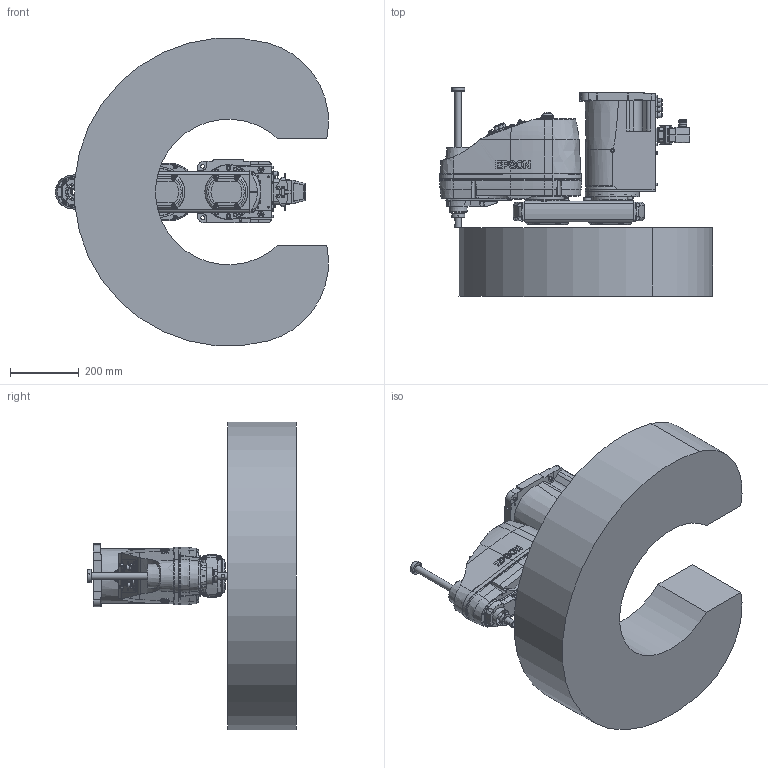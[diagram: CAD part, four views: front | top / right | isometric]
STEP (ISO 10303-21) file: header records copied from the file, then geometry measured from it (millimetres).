
FILE_DESCRIPTION( ( 'STEP AP214' ), '1' );
FILE_NAME( 'C:/Users/9607552/Desktop/GX8-B452SR_langle.stp', '2023-07-07T01:44:36', ( '' ), ( '' ), ' ', 'PARTsolutions', ' ' );
FILE_SCHEMA( ( 'AUTOMOTIVE_DESIGN { 1 0 10303 214 1 1 1 1 }' ) );
Length unit declared in the file: millimetre
Products named in the file (9): GX8-B452SRA-W; _B452SR_BASE; _B452SR; _B452SR_1; _B452SR_2; _B452S_J2; _B452SZA; _Angle-B; _GX8-14-B_WS
Assembly tree (10 placements, depth 2):
  GX8-B452SRA-W
    _B452SR_BASE
    _B452SR
    _B452SR_1  x2
    _B452SR_2  x2
    _B452S_J2
    _B452SZA
    _Angle-B
    _GX8-14-B_WS
Bounding box: 797.24 x 610 x 896.58 mm (x, y, z)
Volume: 97892362.5 mm3; surface area: 2545645.4 mm2
Topology: 10 solids, 10 shells, 2862 faces, 6968 edges, 4547 vertices
Faces by surface type: plane 1441, cylinder 926, cone 333, torus 119, bspline 37, sphere 6
Full cylindrical faces by diameter (mm): 1 x48, 1.18 x55, 2.261 x4, 2.459 x12, 3 x32, 3.242 x18, 3.3 x5, 3.9 x4, 4 x4, 4.2 x8, 4.5 x4, 4.8 x4, 5.34 x4, 5.5 x17, 6 x1, 6.2 x4, 6.647 x4, 6.8 x2, 7 x48, 8 x5, 8.5 x6, 9 x24, 10 x18, 11 x4, 11.2 x7, 11.5 x1, 12 x5, 12.25 x1, 13 x3, 13.2 x12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
Entity records: 102022 total; most frequent: CARTESIAN_POINT 19302, DIRECTION 12608, ORIENTED_EDGE 11602, EDGE_CURVE 5801, AXIS2_PLACEMENT_3D 4846, VERTEX_POINT 4186, EDGE_LOOP 3798, FACE_OUTER_BOUND 3156
